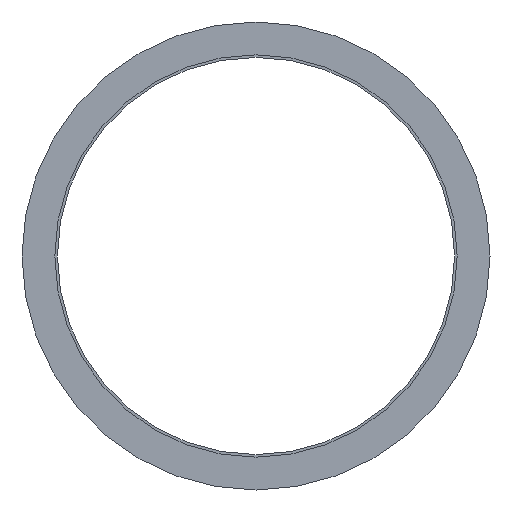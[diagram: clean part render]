
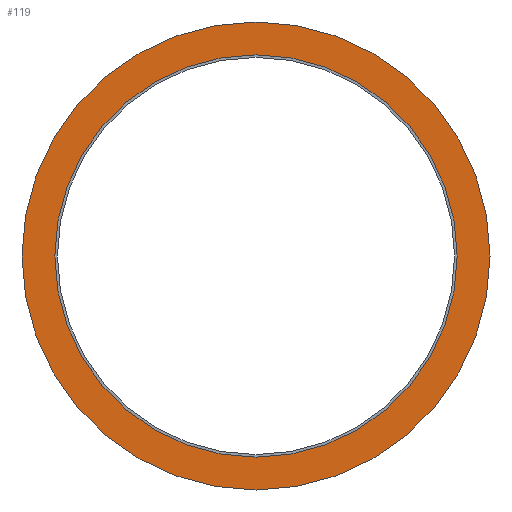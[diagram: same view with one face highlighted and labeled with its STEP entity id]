
A CAD part, front view. The second image highlights one B-rep face of the part: STEP entity #119.
In plain terms, the highlighted planar face has unit normal (0, -1, 0).
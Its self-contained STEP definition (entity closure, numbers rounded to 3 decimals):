
#17 = CARTESIAN_POINT ( 'NONE',  ( 0., 0., 185. ) ) ;
#19 = CIRCLE ( 'NONE', #437, 185. ) ;
#20 = CIRCLE ( 'NONE', #372, 159.05 ) ;
#25 = CARTESIAN_POINT ( 'NONE',  ( 0., 0., 0. ) ) ;
#36 = AXIS2_PLACEMENT_3D ( 'NONE', #25, #450, #314 ) ;
#57 = EDGE_CURVE ( 'NONE', #457, #294, #19, .T. ) ;
#63 = DIRECTION ( 'NONE',  ( 0., 0., -1. ) ) ;
#65 = PLANE ( 'NONE',  #336 ) ;
#75 = DIRECTION ( 'NONE',  ( 0., -1., 0. ) ) ;
#80 = CARTESIAN_POINT ( 'NONE',  ( 0., 0., 0. ) ) ;
#101 = DIRECTION ( 'NONE',  ( 0., 0., -1. ) ) ;
#105 = DIRECTION ( 'NONE',  ( 0., -1., 0. ) ) ;
#107 = FACE_BOUND ( 'NONE', #276, .T. ) ;
#119 = ADVANCED_FACE ( 'NONE', ( #107, #345 ), #65, .F. ) ;
#135 = CARTESIAN_POINT ( 'NONE',  ( 0., 0., -159.05 ) ) ;
#140 = VERTEX_POINT ( 'NONE', #135 ) ;
#188 = ORIENTED_EDGE ( 'NONE', *, *, #577, .F. ) ;
#196 = AXIS2_PLACEMENT_3D ( 'NONE', #80, #330, #101 ) ;
#219 = DIRECTION ( 'NONE',  ( 0., 0., -1. ) ) ;
#221 = VERTEX_POINT ( 'NONE', #243 ) ;
#223 = CARTESIAN_POINT ( 'NONE',  ( 0., 0., 185. ) ) ;
#243 = CARTESIAN_POINT ( 'NONE',  ( 0., 0., 159.05 ) ) ;
#255 = DIRECTION ( 'NONE',  ( 0., 0., 1. ) ) ;
#264 = ORIENTED_EDGE ( 'NONE', *, *, #57, .T. ) ;
#276 = EDGE_LOOP ( 'NONE', ( #584, #188 ) ) ;
#294 = VERTEX_POINT ( 'NONE', #223 ) ;
#308 = EDGE_LOOP ( 'NONE', ( #264, #335 ) ) ;
#314 = DIRECTION ( 'NONE',  ( 0., 0., -1. ) ) ;
#321 = CARTESIAN_POINT ( 'NONE',  ( 0., 0., 0. ) ) ;
#330 = DIRECTION ( 'NONE',  ( 0., -1., 0. ) ) ;
#334 = EDGE_CURVE ( 'NONE', #140, #221, #20, .T. ) ;
#335 = ORIENTED_EDGE ( 'NONE', *, *, #397, .T. ) ;
#336 = AXIS2_PLACEMENT_3D ( 'NONE', #17, #390, #255 ) ;
#345 = FACE_OUTER_BOUND ( 'NONE', #308, .T. ) ;
#372 = AXIS2_PLACEMENT_3D ( 'NONE', #321, #75, #219 ) ;
#390 = DIRECTION ( 'NONE',  ( 0., 1., 0. ) ) ;
#397 = EDGE_CURVE ( 'NONE', #294, #457, #469, .T. ) ;
#437 = AXIS2_PLACEMENT_3D ( 'NONE', #573, #105, #63 ) ;
#442 = CIRCLE ( 'NONE', #196, 159.05 ) ;
#450 = DIRECTION ( 'NONE',  ( 0., -1., 0. ) ) ;
#457 = VERTEX_POINT ( 'NONE', #492 ) ;
#469 = CIRCLE ( 'NONE', #36, 185. ) ;
#492 = CARTESIAN_POINT ( 'NONE',  ( 0., 0., -185. ) ) ;
#573 = CARTESIAN_POINT ( 'NONE',  ( 0., 0., 0. ) ) ;
#577 = EDGE_CURVE ( 'NONE', #221, #140, #442, .T. ) ;
#584 = ORIENTED_EDGE ( 'NONE', *, *, #334, .F. ) ;
